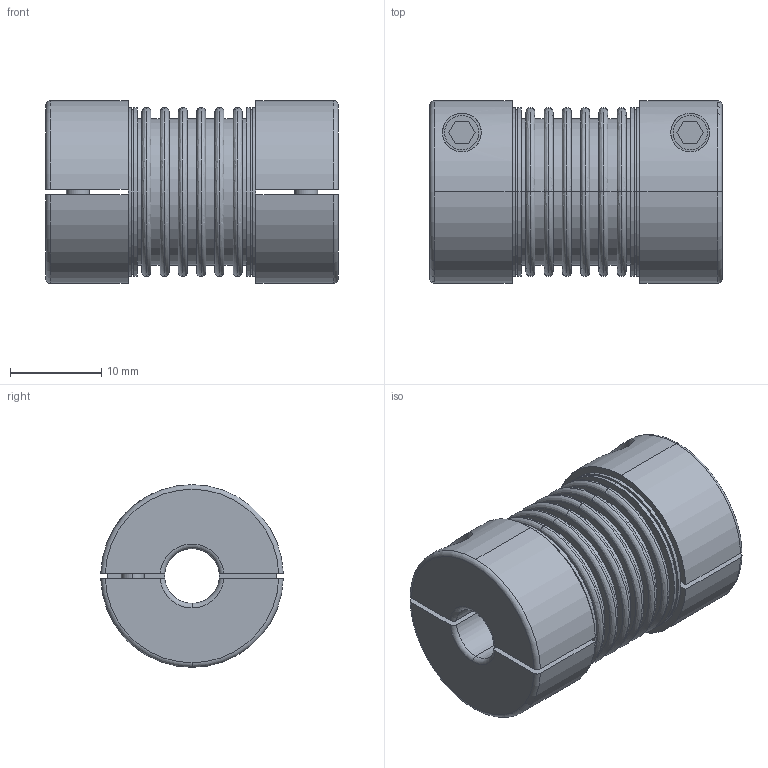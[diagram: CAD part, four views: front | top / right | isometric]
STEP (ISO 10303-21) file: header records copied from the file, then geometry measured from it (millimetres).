
FILE_DESCRIPTION (( 'STEP AP203' ), '1' );
FILE_NAME ('GMT-FACB20.STEP', '2008-04-17T02:42:59', ( 'user' ), ( '' ), 'SwSTEP 2.0', 'SolidWorks 2007', '' );
FILE_SCHEMA (( 'CONFIG_CONTROL_DESIGN' ));
Length unit declared in the file: millimetre
Products named in the file (1): GMT-FACB20
Bounding box: 32 x 19.99 x 20 mm (x, y, z)
Volume: 7425.2 mm3; surface area: 4756.7 mm2
Topology: 1 solids, 1 shells, 155 faces, 353 edges, 227 vertices
Faces by surface type: plane 61, cylinder 58, bspline 24, torus 12
Entity records: 4983 total; most frequent: CARTESIAN_POINT 1448, DIRECTION 742, ORIENTED_EDGE 706, EDGE_CURVE 353, AXIS2_PLACEMENT_3D 307, VERTEX_POINT 227, EDGE_LOOP 188, CIRCLE 175
